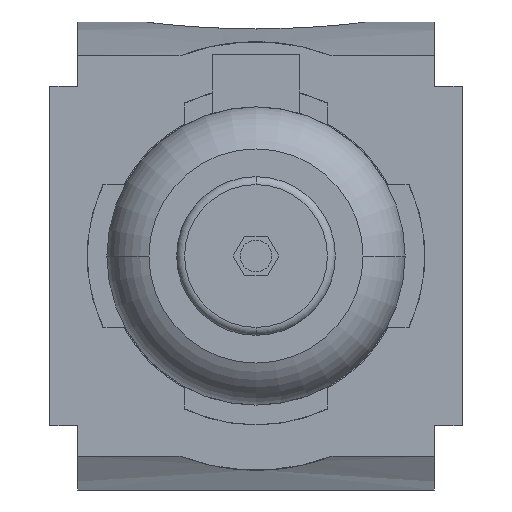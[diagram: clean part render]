
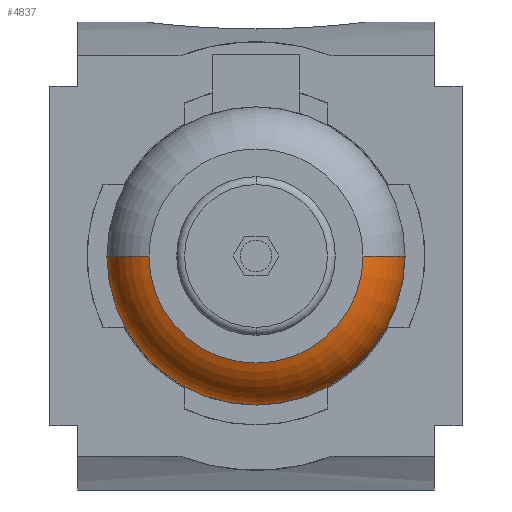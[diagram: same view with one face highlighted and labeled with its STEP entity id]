
A CAD part, front view. The second image highlights one B-rep face of the part: STEP entity #4837.
In plain terms, the highlighted toroidal (fillet/blend) face has major radius 10.8 mm and minor radius 8 mm.
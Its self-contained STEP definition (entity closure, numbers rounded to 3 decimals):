
#3993=CARTESIAN_POINT('',(10.8,-90.869,0.));
#3994=DIRECTION('',(0.,0.,1.));
#3995=DIRECTION('',(0.338,-0.941,0.));
#3996=AXIS2_PLACEMENT_3D('',#3993,#3994,#3995);
#3998=CARTESIAN_POINT('',(-10.8,-90.869,0.));
#3999=DIRECTION('',(0.,0.,-1.));
#4000=DIRECTION('',(-0.338,-0.941,0.));
#4001=AXIS2_PLACEMENT_3D('',#3998,#3999,#4000);
#4003=CARTESIAN_POINT('',(0.,-98.4,0.));
#4004=DIRECTION('',(0.,1.,0.));
#4005=DIRECTION('',(1.,0.,0.));
#4006=AXIS2_PLACEMENT_3D('',#4003,#4004,#4005);
#4098=CARTESIAN_POINT('',(0.,-90.869,0.));
#4099=DIRECTION('',(0.,1.,0.));
#4100=DIRECTION('',(1.,0.,0.));
#4101=AXIS2_PLACEMENT_3D('',#4098,#4099,#4100);
#4606=CARTESIAN_POINT('',(13.5,-98.4,0.));
#4608=VERTEX_POINT('',#4606);
#4609=CARTESIAN_POINT('',(18.8,-90.869,0.));
#4610=VERTEX_POINT('',#4609);
#4614=CARTESIAN_POINT('',(-13.5,-98.4,0.));
#4616=VERTEX_POINT('',#4614);
#4617=CARTESIAN_POINT('',(-18.8,-90.869,0.));
#4618=VERTEX_POINT('',#4617);
#4823=CARTESIAN_POINT('',(0.,-90.869,0.));
#4824=DIRECTION('',(0.,-1.,0.));
#4825=DIRECTION('',(-1.,0.,0.));
#4826=AXIS2_PLACEMENT_3D('',#4823,#4824,#4825);
#4827=TOROIDAL_SURFACE('',#4826,10.8,8.);
#4829=ORIENTED_EDGE('',*,*,#4828,.T.);
#4831=ORIENTED_EDGE('',*,*,#4830,.T.);
#4833=ORIENTED_EDGE('',*,*,#4832,.F.);
#4834=ORIENTED_EDGE('',*,*,#4815,.F.);
#4835=EDGE_LOOP('',(#4829,#4831,#4833,#4834));
#4836=FACE_OUTER_BOUND('',#4835,.F.);
#4837=ADVANCED_FACE('',(#4836),#4827,.T.);
#3997=CIRCLE('',#3996,8.);
#4002=CIRCLE('',#4001,8.);
#4007=CIRCLE('',#4006,13.5);
#4102=CIRCLE('',#4101,18.8);
#4815=EDGE_CURVE('',#4608,#4616,#4007,.T.);
#4828=EDGE_CURVE('',#4608,#4610,#3997,.T.);
#4830=EDGE_CURVE('',#4610,#4618,#4102,.T.);
#4832=EDGE_CURVE('',#4616,#4618,#4002,.T.);
